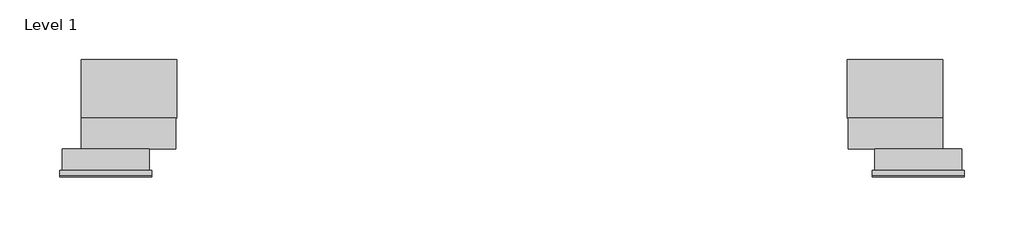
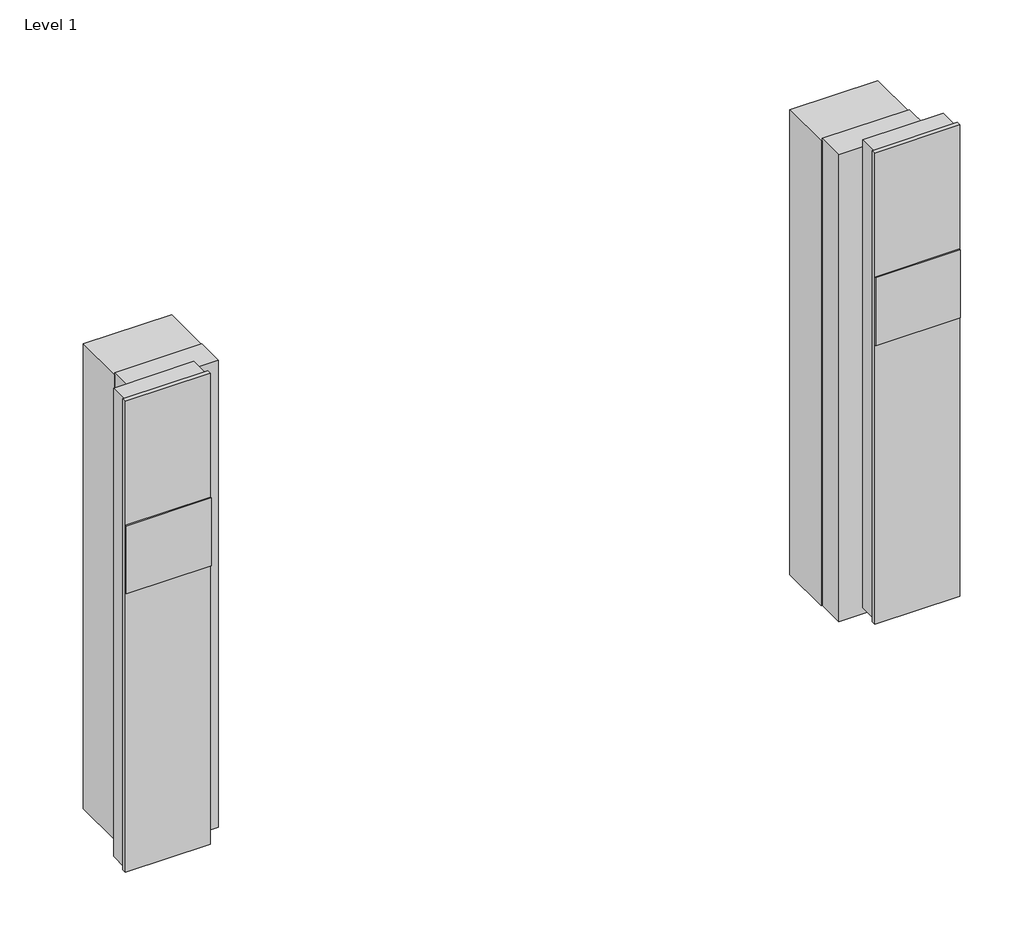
# One storey: 1 proxy.
"""IFC4 building model written with IfcOpenShell, lengths in millimetres."""

from ifc_helpers import new_model, si_unit, origin, place, context, project, spatial, transform, mapped, element, save
from components import specialty_equipment_82ef96f5

model = new_model("IFC4")

# Units and contexts
model_context = context("Model", 3, world=origin())
ifc_project = project(units=[si_unit("LENGTHUNIT", "METRE", prefix="MILLI")], contexts=[model_context])

# Site, building, storey
site = spatial("IfcSite", under=ifc_project)
building = spatial("IfcBuilding", under=site)
storey = spatial("IfcBuildingStorey", under=building, Name="Level 1", Elevation=0.0)

# Proxy
placement = place(None, origin())
specialty_equipment_shape = specialty_equipment_82ef96f5(model_context)
element("IfcBuildingElementProxy", 1, Name="11410740_USA_EBA7848_EDST-CLST : 29992961_USA_11410740_EBA7848_EDST-CLST", ObjectType="11410740_USA_EBA7848_EDST-CLST : 29992961_USA_11410740_EBA7848_EDST-CLST", at=placement, inside=storey, context=model_context, shape_type="MappedRepresentation", body=[
    mapped(specialty_equipment_shape, transform((0.0, 0.0, 0.0), x_axis=(1.0, 0.0, 0.0), y_axis=(0.0, 1.0, 0.0), z_axis=(0.0, 0.0, 1.0))),
])

save(model, "model.ifc")
